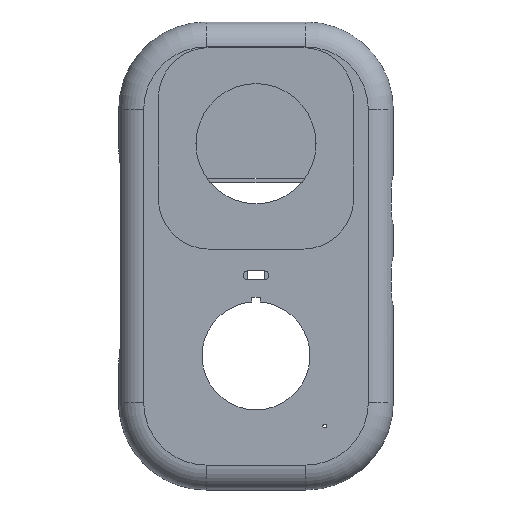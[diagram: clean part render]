
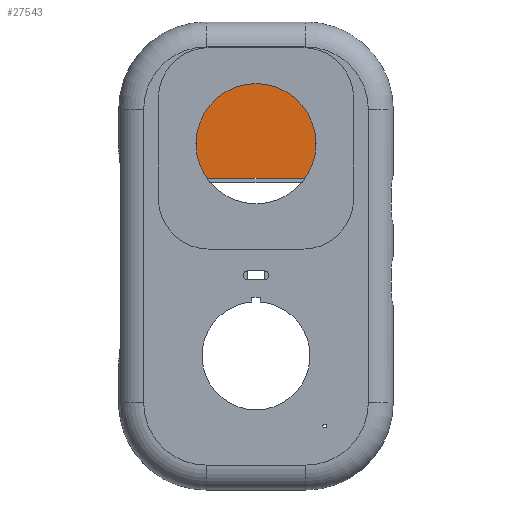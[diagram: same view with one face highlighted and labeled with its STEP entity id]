
A CAD part, front view. The second image highlights one B-rep face of the part: STEP entity #27543.
In plain terms, the highlighted planar face has unit normal (0, -1, 0).
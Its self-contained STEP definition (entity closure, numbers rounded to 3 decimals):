
#7722 = PLANE('',#7723);
#7723 = AXIS2_PLACEMENT_3D('',#7724,#7725,#7726);
#7724 = CARTESIAN_POINT('',(-30.5,-11.7,45.));
#7725 = DIRECTION('',(1.,0.,0.));
#7726 = DIRECTION('',(0.,0.,1.));
#9356 = PLANE('',#9357);
#9357 = AXIS2_PLACEMENT_3D('',#9358,#9359,#9360);
#9358 = CARTESIAN_POINT('',(30.5,-11.7,30.5));
#9359 = DIRECTION('',(1.,0.,0.));
#9360 = DIRECTION('',(0.,0.,1.));
#20540 = VERTEX_POINT('',#20541);
#20541 = CARTESIAN_POINT('',(-30.5,-4.7,57.));
#20578 = PLANE('',#20579);
#20579 = AXIS2_PLACEMENT_3D('',#20580,#20581,#20582);
#20580 = CARTESIAN_POINT('',(-30.5,-4.7,25.));
#20581 = DIRECTION('',(1.,0.,0.));
#20582 = DIRECTION('',(0.,0.,1.));
#20699 = VERTEX_POINT('',#20700);
#20700 = CARTESIAN_POINT('',(-30.5,-4.7,45.));
#20737 = PLANE('',#20738);
#20738 = AXIS2_PLACEMENT_3D('',#20739,#20740,#20741);
#20739 = CARTESIAN_POINT('',(-30.5,-4.7,25.));
#20740 = DIRECTION('',(1.,0.,0.));
#20741 = DIRECTION('',(0.,0.,1.));
#20796 = EDGE_CURVE('',#20699,#20540,#20797,.T.);
#20797 = SURFACE_CURVE('',#20798,(#20802,#20809),.PCURVE_S1.);
#20798 = LINE('',#20799,#20800);
#20799 = CARTESIAN_POINT('',(-30.5,-4.7,25.));
#20800 = VECTOR('',#20801,1.);
#20801 = DIRECTION('',(0.,0.,1.));
#20802 = PCURVE('',#7722,#20803);
#20803 = DEFINITIONAL_REPRESENTATION('',(#20804),#20808);
#20804 = LINE('',#20805,#20806);
#20805 = CARTESIAN_POINT('',(-20.,-7.));
#20806 = VECTOR('',#20807,1.);
#20807 = DIRECTION('',(1.,0.));
#20808 = ( GEOMETRIC_REPRESENTATION_CONTEXT(2) 
PARAMETRIC_REPRESENTATION_CONTEXT() REPRESENTATION_CONTEXT('2D SPACE',''
  ) );
#20809 = PCURVE('',#20810,#20815);
#20810 = PLANE('',#20811);
#20811 = AXIS2_PLACEMENT_3D('',#20812,#20813,#20814);
#20812 = CARTESIAN_POINT('',(-30.5,-4.7,25.));
#20813 = DIRECTION('',(0.,1.,0.));
#20814 = DIRECTION('',(0.,-0.,1.));
#20815 = DEFINITIONAL_REPRESENTATION('',(#20816),#20820);
#20816 = LINE('',#20817,#20818);
#20817 = CARTESIAN_POINT('',(0.,0.));
#20818 = VECTOR('',#20819,1.);
#20819 = DIRECTION('',(1.,0.));
#20820 = ( GEOMETRIC_REPRESENTATION_CONTEXT(2) 
PARAMETRIC_REPRESENTATION_CONTEXT() REPRESENTATION_CONTEXT('2D SPACE',''
  ) );
#24229 = VERTEX_POINT('',#24230);
#24230 = CARTESIAN_POINT('',(30.5,-4.7,57.));
#24246 = PLANE('',#24247);
#24247 = AXIS2_PLACEMENT_3D('',#24248,#24249,#24250);
#24248 = CARTESIAN_POINT('',(30.5,-4.7,25.));
#24249 = DIRECTION('',(1.,0.,0.));
#24250 = DIRECTION('',(0.,0.,1.));
#24360 = EDGE_CURVE('',#24361,#24229,#24363,.T.);
#24361 = VERTEX_POINT('',#24362);
#24362 = CARTESIAN_POINT('',(30.5,-4.7,30.5));
#24363 = SURFACE_CURVE('',#24364,(#24368,#24375),.PCURVE_S1.);
#24364 = LINE('',#24365,#24366);
#24365 = CARTESIAN_POINT('',(30.5,-4.7,25.));
#24366 = VECTOR('',#24367,1.);
#24367 = DIRECTION('',(0.,0.,1.));
#24368 = PCURVE('',#9356,#24369);
#24369 = DEFINITIONAL_REPRESENTATION('',(#24370),#24374);
#24370 = LINE('',#24371,#24372);
#24371 = CARTESIAN_POINT('',(-5.5,-7.));
#24372 = VECTOR('',#24373,1.);
#24373 = DIRECTION('',(1.,0.));
#24374 = ( GEOMETRIC_REPRESENTATION_CONTEXT(2) 
PARAMETRIC_REPRESENTATION_CONTEXT() REPRESENTATION_CONTEXT('2D SPACE',''
  ) );
#24375 = PCURVE('',#20810,#24376);
#24376 = DEFINITIONAL_REPRESENTATION('',(#24377),#24381);
#24377 = LINE('',#24378,#24379);
#24378 = CARTESIAN_POINT('',(0.,61.));
#24379 = VECTOR('',#24380,1.);
#24380 = DIRECTION('',(1.,0.));
#24381 = ( GEOMETRIC_REPRESENTATION_CONTEXT(2) 
PARAMETRIC_REPRESENTATION_CONTEXT() REPRESENTATION_CONTEXT('2D SPACE',''
  ) );
#24425 = PLANE('',#24426);
#24426 = AXIS2_PLACEMENT_3D('',#24427,#24428,#24429);
#24427 = CARTESIAN_POINT('',(30.5,-4.7,25.));
#24428 = DIRECTION('',(1.,0.,0.));
#24429 = DIRECTION('',(0.,0.,1.));
#27336 = EDGE_CURVE('',#20540,#27337,#27339,.T.);
#27337 = VERTEX_POINT('',#27338);
#27338 = CARTESIAN_POINT('',(-30.5,-4.7,61.));
#27339 = SURFACE_CURVE('',#27340,(#27344,#27351),.PCURVE_S1.);
#27340 = LINE('',#27341,#27342);
#27341 = CARTESIAN_POINT('',(-30.5,-4.7,25.));
#27342 = VECTOR('',#27343,1.);
#27343 = DIRECTION('',(0.,0.,1.));
#27344 = PCURVE('',#20578,#27345);
#27345 = DEFINITIONAL_REPRESENTATION('',(#27346),#27350);
#27346 = LINE('',#27347,#27348);
#27347 = CARTESIAN_POINT('',(0.,0.));
#27348 = VECTOR('',#27349,1.);
#27349 = DIRECTION('',(1.,0.));
#27350 = ( GEOMETRIC_REPRESENTATION_CONTEXT(2) 
PARAMETRIC_REPRESENTATION_CONTEXT() REPRESENTATION_CONTEXT('2D SPACE',''
  ) );
#27351 = PCURVE('',#20810,#27352);
#27352 = DEFINITIONAL_REPRESENTATION('',(#27353),#27357);
#27353 = LINE('',#27354,#27355);
#27354 = CARTESIAN_POINT('',(0.,0.));
#27355 = VECTOR('',#27356,1.);
#27356 = DIRECTION('',(1.,0.));
#27357 = ( GEOMETRIC_REPRESENTATION_CONTEXT(2) 
PARAMETRIC_REPRESENTATION_CONTEXT() REPRESENTATION_CONTEXT('2D SPACE',''
  ) );
#27402 = PLANE('',#27403);
#27403 = AXIS2_PLACEMENT_3D('',#27404,#27405,#27406);
#27404 = CARTESIAN_POINT('',(-30.5,-4.7,61.));
#27405 = DIRECTION('',(0.,0.,1.));
#27406 = DIRECTION('',(1.,0.,-0.));
#27471 = EDGE_CURVE('',#27472,#20699,#27474,.T.);
#27472 = VERTEX_POINT('',#27473);
#27473 = CARTESIAN_POINT('',(-30.5,-4.7,25.));
#27474 = SURFACE_CURVE('',#27475,(#27479,#27486),.PCURVE_S1.);
#27475 = LINE('',#27476,#27477);
#27476 = CARTESIAN_POINT('',(-30.5,-4.7,25.));
#27477 = VECTOR('',#27478,1.);
#27478 = DIRECTION('',(0.,0.,1.));
#27479 = PCURVE('',#20737,#27480);
#27480 = DEFINITIONAL_REPRESENTATION('',(#27481),#27485);
#27481 = LINE('',#27482,#27483);
#27482 = CARTESIAN_POINT('',(0.,0.));
#27483 = VECTOR('',#27484,1.);
#27484 = DIRECTION('',(1.,0.));
#27485 = ( GEOMETRIC_REPRESENTATION_CONTEXT(2) 
PARAMETRIC_REPRESENTATION_CONTEXT() REPRESENTATION_CONTEXT('2D SPACE',''
  ) );
#27486 = PCURVE('',#20810,#27487);
#27487 = DEFINITIONAL_REPRESENTATION('',(#27488),#27492);
#27488 = LINE('',#27489,#27490);
#27489 = CARTESIAN_POINT('',(0.,0.));
#27490 = VECTOR('',#27491,1.);
#27491 = DIRECTION('',(1.,0.));
#27492 = ( GEOMETRIC_REPRESENTATION_CONTEXT(2) 
PARAMETRIC_REPRESENTATION_CONTEXT() REPRESENTATION_CONTEXT('2D SPACE',''
  ) );
#27510 = PLANE('',#27511);
#27511 = AXIS2_PLACEMENT_3D('',#27512,#27513,#27514);
#27512 = CARTESIAN_POINT('',(-30.5,-4.7,25.));
#27513 = DIRECTION('',(0.,0.,1.));
#27514 = DIRECTION('',(1.,0.,-0.));
#27543 = ADVANCED_FACE('',(#27544),#20810,.F.);
#27544 = FACE_BOUND('',#27545,.F.);
#27545 = EDGE_LOOP('',(#27546,#27569,#27570,#27571,#27572,#27595,#27616,
    #27617));
#27546 = ORIENTED_EDGE('',*,*,#27547,.F.);
#27547 = EDGE_CURVE('',#27472,#27548,#27550,.T.);
#27548 = VERTEX_POINT('',#27549);
#27549 = CARTESIAN_POINT('',(30.5,-4.7,25.));
#27550 = SURFACE_CURVE('',#27551,(#27555,#27562),.PCURVE_S1.);
#27551 = LINE('',#27552,#27553);
#27552 = CARTESIAN_POINT('',(-30.5,-4.7,25.));
#27553 = VECTOR('',#27554,1.);
#27554 = DIRECTION('',(1.,0.,0.));
#27555 = PCURVE('',#20810,#27556);
#27556 = DEFINITIONAL_REPRESENTATION('',(#27557),#27561);
#27557 = LINE('',#27558,#27559);
#27558 = CARTESIAN_POINT('',(0.,0.));
#27559 = VECTOR('',#27560,1.);
#27560 = DIRECTION('',(0.,1.));
#27561 = ( GEOMETRIC_REPRESENTATION_CONTEXT(2) 
PARAMETRIC_REPRESENTATION_CONTEXT() REPRESENTATION_CONTEXT('2D SPACE',''
  ) );
#27562 = PCURVE('',#27510,#27563);
#27563 = DEFINITIONAL_REPRESENTATION('',(#27564),#27568);
#27564 = LINE('',#27565,#27566);
#27565 = CARTESIAN_POINT('',(0.,0.));
#27566 = VECTOR('',#27567,1.);
#27567 = DIRECTION('',(1.,0.));
#27568 = ( GEOMETRIC_REPRESENTATION_CONTEXT(2) 
PARAMETRIC_REPRESENTATION_CONTEXT() REPRESENTATION_CONTEXT('2D SPACE',''
  ) );
#27569 = ORIENTED_EDGE('',*,*,#27471,.T.);
#27570 = ORIENTED_EDGE('',*,*,#20796,.T.);
#27571 = ORIENTED_EDGE('',*,*,#27336,.T.);
#27572 = ORIENTED_EDGE('',*,*,#27573,.T.);
#27573 = EDGE_CURVE('',#27337,#27574,#27576,.T.);
#27574 = VERTEX_POINT('',#27575);
#27575 = CARTESIAN_POINT('',(30.5,-4.7,61.));
#27576 = SURFACE_CURVE('',#27577,(#27581,#27588),.PCURVE_S1.);
#27577 = LINE('',#27578,#27579);
#27578 = CARTESIAN_POINT('',(-30.5,-4.7,61.));
#27579 = VECTOR('',#27580,1.);
#27580 = DIRECTION('',(1.,0.,0.));
#27581 = PCURVE('',#20810,#27582);
#27582 = DEFINITIONAL_REPRESENTATION('',(#27583),#27587);
#27583 = LINE('',#27584,#27585);
#27584 = CARTESIAN_POINT('',(36.,0.));
#27585 = VECTOR('',#27586,1.);
#27586 = DIRECTION('',(0.,1.));
#27587 = ( GEOMETRIC_REPRESENTATION_CONTEXT(2) 
PARAMETRIC_REPRESENTATION_CONTEXT() REPRESENTATION_CONTEXT('2D SPACE',''
  ) );
#27588 = PCURVE('',#27402,#27589);
#27589 = DEFINITIONAL_REPRESENTATION('',(#27590),#27594);
#27590 = LINE('',#27591,#27592);
#27591 = CARTESIAN_POINT('',(0.,0.));
#27592 = VECTOR('',#27593,1.);
#27593 = DIRECTION('',(1.,0.));
#27594 = ( GEOMETRIC_REPRESENTATION_CONTEXT(2) 
PARAMETRIC_REPRESENTATION_CONTEXT() REPRESENTATION_CONTEXT('2D SPACE',''
  ) );
#27595 = ORIENTED_EDGE('',*,*,#27596,.F.);
#27596 = EDGE_CURVE('',#24229,#27574,#27597,.T.);
#27597 = SURFACE_CURVE('',#27598,(#27602,#27609),.PCURVE_S1.);
#27598 = LINE('',#27599,#27600);
#27599 = CARTESIAN_POINT('',(30.5,-4.7,25.));
#27600 = VECTOR('',#27601,1.);
#27601 = DIRECTION('',(0.,0.,1.));
#27602 = PCURVE('',#20810,#27603);
#27603 = DEFINITIONAL_REPRESENTATION('',(#27604),#27608);
#27604 = LINE('',#27605,#27606);
#27605 = CARTESIAN_POINT('',(0.,61.));
#27606 = VECTOR('',#27607,1.);
#27607 = DIRECTION('',(1.,0.));
#27608 = ( GEOMETRIC_REPRESENTATION_CONTEXT(2) 
PARAMETRIC_REPRESENTATION_CONTEXT() REPRESENTATION_CONTEXT('2D SPACE',''
  ) );
#27609 = PCURVE('',#24246,#27610);
#27610 = DEFINITIONAL_REPRESENTATION('',(#27611),#27615);
#27611 = LINE('',#27612,#27613);
#27612 = CARTESIAN_POINT('',(0.,0.));
#27613 = VECTOR('',#27614,1.);
#27614 = DIRECTION('',(1.,0.));
#27615 = ( GEOMETRIC_REPRESENTATION_CONTEXT(2) 
PARAMETRIC_REPRESENTATION_CONTEXT() REPRESENTATION_CONTEXT('2D SPACE',''
  ) );
#27616 = ORIENTED_EDGE('',*,*,#24360,.F.);
#27617 = ORIENTED_EDGE('',*,*,#27618,.F.);
#27618 = EDGE_CURVE('',#27548,#24361,#27619,.T.);
#27619 = SURFACE_CURVE('',#27620,(#27624,#27631),.PCURVE_S1.);
#27620 = LINE('',#27621,#27622);
#27621 = CARTESIAN_POINT('',(30.5,-4.7,25.));
#27622 = VECTOR('',#27623,1.);
#27623 = DIRECTION('',(0.,0.,1.));
#27624 = PCURVE('',#20810,#27625);
#27625 = DEFINITIONAL_REPRESENTATION('',(#27626),#27630);
#27626 = LINE('',#27627,#27628);
#27627 = CARTESIAN_POINT('',(0.,61.));
#27628 = VECTOR('',#27629,1.);
#27629 = DIRECTION('',(1.,0.));
#27630 = ( GEOMETRIC_REPRESENTATION_CONTEXT(2) 
PARAMETRIC_REPRESENTATION_CONTEXT() REPRESENTATION_CONTEXT('2D SPACE',''
  ) );
#27631 = PCURVE('',#24425,#27632);
#27632 = DEFINITIONAL_REPRESENTATION('',(#27633),#27637);
#27633 = LINE('',#27634,#27635);
#27634 = CARTESIAN_POINT('',(0.,0.));
#27635 = VECTOR('',#27636,1.);
#27636 = DIRECTION('',(1.,0.));
#27637 = ( GEOMETRIC_REPRESENTATION_CONTEXT(2) 
PARAMETRIC_REPRESENTATION_CONTEXT() REPRESENTATION_CONTEXT('2D SPACE',''
  ) );
